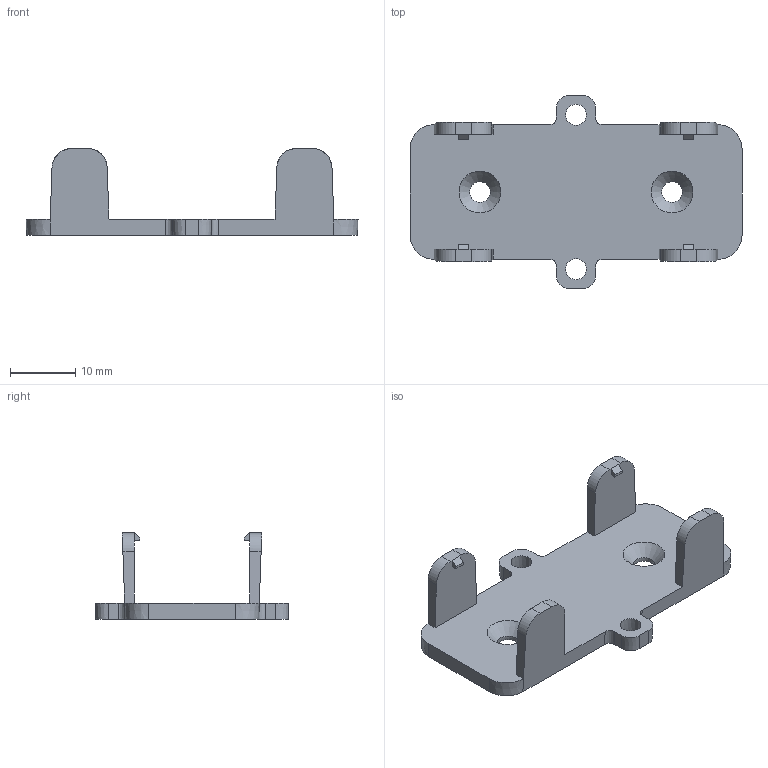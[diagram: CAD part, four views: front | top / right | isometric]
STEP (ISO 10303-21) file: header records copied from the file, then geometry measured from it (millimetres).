
FILE_DESCRIPTION(/* description */ (''),/* implementation_level */ '2;1');
FILE_NAME(/* name */ 'LS-2点从站固定扣.stp',/* time_stamp */ '2024-10-16T17:01:23+08:00',/* author */ (''),/* organization */ (''),/* preprocessor_version */ 'ST-DEVELOPER v16',/* originating_system */ 'SIEMENS PLM Software NX 10.0',/* authorisation */ '');
FILE_SCHEMA (('AP203_CONFIGURATION_CONTROLLED_3D_DESIGN_OF_MECHANICAL_PARTS_AND_ASSEMBLIES_MIM_LF { 1 0 10303 403 2 1 2}'));
Length unit declared in the file: millimetre
Products named in the file (1): chaoC3A03A0Cfl8i
Bounding box: 50.8 x 29.6 x 13.3 mm (x, y, z)
Volume: 2357.8 mm3; surface area: 3633.4 mm2
Topology: 1 solids, 1 shells, 105 faces, 286 edges, 188 vertices
Faces by surface type: plane 65, cone 26, cylinder 8, bspline 4, torus 2
Entity records: 3522 total; most frequent: CARTESIAN_POINT 818, ORIENTED_EDGE 540, DIRECTION 528, EDGE_CURVE 270, LINE 184, VECTOR 184, VERTEX_POINT 182, AXIS2_PLACEMENT_3D 172
